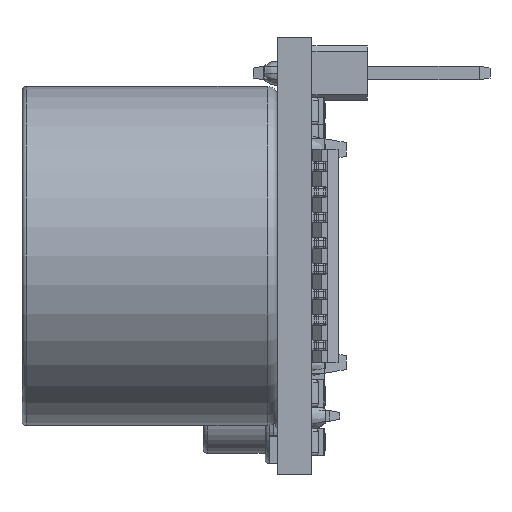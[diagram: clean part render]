
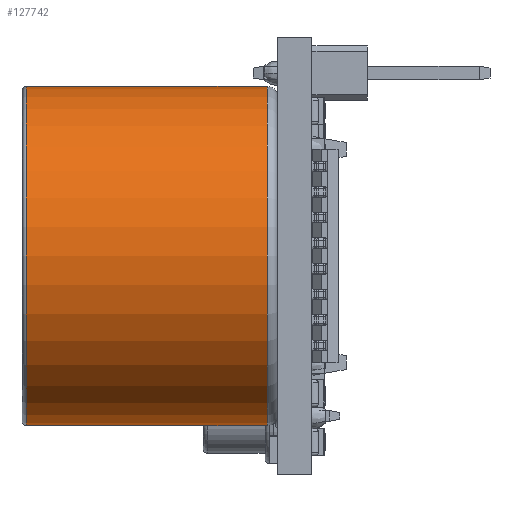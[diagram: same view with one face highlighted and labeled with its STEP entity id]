
A CAD part, left-side view. The second image highlights one B-rep face of the part: STEP entity #127742.
In plain terms, the highlighted cylindrical face has radius 7.95 mm (diameter 15.9 mm), a partial arc.
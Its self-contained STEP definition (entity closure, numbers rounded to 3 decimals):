
#1218 = CARTESIAN_POINT ( 'NONE',  ( 0., 12., 7.95 ) ) ;
#2352 = AXIS2_PLACEMENT_3D ( 'NONE', #42171, #107139, #129856 ) ;
#4533 = AXIS2_PLACEMENT_3D ( 'NONE', #118358, #11488, #22259 ) ;
#7696 = CARTESIAN_POINT ( 'NONE',  ( 0., 12., -7.95 ) ) ;
#10763 = EDGE_CURVE ( 'NONE', #12177, #129697, #57086, .T. ) ;
#11488 = DIRECTION ( 'NONE',  ( 0., 1., 0. ) ) ;
#12117 = DIRECTION ( 'NONE',  ( 0., -1., 0. ) ) ;
#12177 = VERTEX_POINT ( 'NONE', #23025 ) ;
#19572 = DIRECTION ( 'NONE',  ( 0., -1., 0. ) ) ;
#22259 = DIRECTION ( 'NONE',  ( 0., 0., 1. ) ) ;
#23025 = CARTESIAN_POINT ( 'NONE',  ( 0., 11.8, 7.95 ) ) ;
#25937 = EDGE_CURVE ( 'NONE', #32614, #129697, #122806, .T. ) ;
#27977 = CARTESIAN_POINT ( 'NONE',  ( 0., 0.5, -7.95 ) ) ;
#30722 = DIRECTION ( 'NONE',  ( 0., -1., 0. ) ) ;
#32614 = VERTEX_POINT ( 'NONE', #27977 ) ;
#42171 = CARTESIAN_POINT ( 'NONE',  ( 0., 12., 0. ) ) ;
#44866 = VECTOR ( 'NONE', #30722, 1000. ) ;
#53212 = EDGE_LOOP ( 'NONE', ( #113667, #87853, #136604, #137376 ) ) ;
#57086 = LINE ( 'NONE', #1218, #126268 ) ;
#58478 = CARTESIAN_POINT ( 'NONE',  ( 0., 0.5, 7.95 ) ) ;
#80331 = FACE_OUTER_BOUND ( 'NONE', #53212, .T. ) ;
#81964 = CYLINDRICAL_SURFACE ( 'NONE', #2352, 7.95 ) ;
#83575 = CARTESIAN_POINT ( 'NONE',  ( 0., 11.8, 0. ) ) ;
#85601 = EDGE_CURVE ( 'NONE', #93574, #32614, #103824, .T. ) ;
#86140 = CIRCLE ( 'NONE', #139421, 7.95 ) ;
#87853 = ORIENTED_EDGE ( 'NONE', *, *, #135693, .T. ) ;
#93574 = VERTEX_POINT ( 'NONE', #97017 ) ;
#97017 = CARTESIAN_POINT ( 'NONE',  ( 0., 11.8, -7.95 ) ) ;
#103824 = LINE ( 'NONE', #7696, #44866 ) ;
#107139 = DIRECTION ( 'NONE',  ( 0., -1., 0. ) ) ;
#113667 = ORIENTED_EDGE ( 'NONE', *, *, #10763, .F. ) ;
#116587 = DIRECTION ( 'NONE',  ( 0., 0., 1. ) ) ;
#118358 = CARTESIAN_POINT ( 'NONE',  ( 0., 0.5, 0. ) ) ;
#122806 = CIRCLE ( 'NONE', #4533, 7.95 ) ;
#126268 = VECTOR ( 'NONE', #12117, 1000. ) ;
#127742 = ADVANCED_FACE ( 'NONE', ( #80331 ), #81964, .T. ) ;
#129697 = VERTEX_POINT ( 'NONE', #58478 ) ;
#129856 = DIRECTION ( 'NONE',  ( 0., 0., -1. ) ) ;
#135693 = EDGE_CURVE ( 'NONE', #12177, #93574, #86140, .T. ) ;
#136604 = ORIENTED_EDGE ( 'NONE', *, *, #85601, .T. ) ;
#137376 = ORIENTED_EDGE ( 'NONE', *, *, #25937, .T. ) ;
#139421 = AXIS2_PLACEMENT_3D ( 'NONE', #83575, #19572, #116587 ) ;
